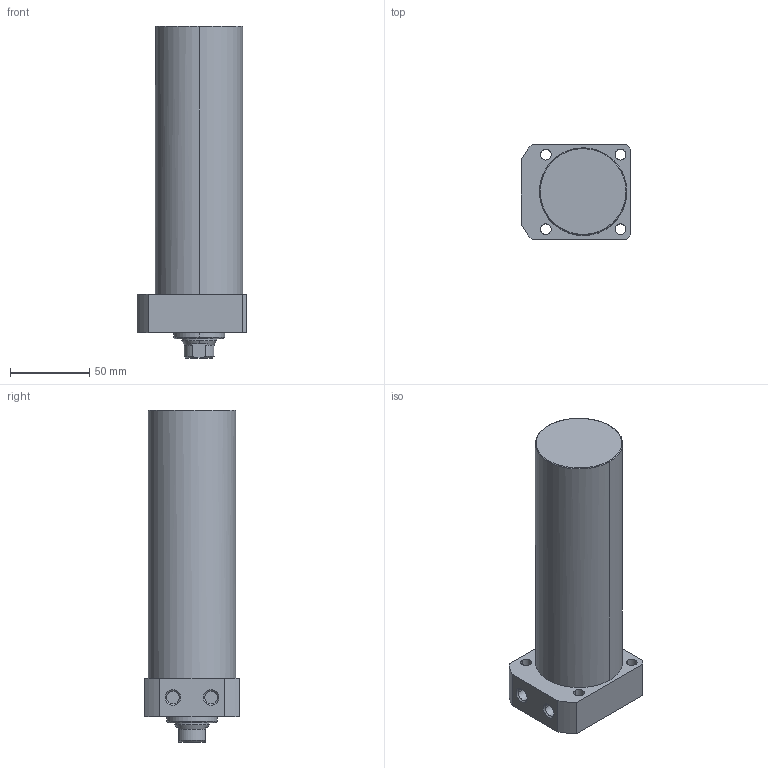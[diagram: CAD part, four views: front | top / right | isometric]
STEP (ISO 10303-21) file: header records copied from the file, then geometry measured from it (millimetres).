
FILE_DESCRIPTION((' '),'2;1');
FILE_NAME( 'TLLR-055CA-140.STEP.stp', '2025-10-24T16:34:43', (' '), ('--- Datakit www.datakit.com---'), ' Datakit CrossCadWare V2024.1 Dec 21 2023', 'Mastercam 2025', ' ');
FILE_SCHEMA(('AUTOMOTIVE_DESIGN { 1 0 10303 214 1 1 1 1 }'));
Length unit declared in the file: millimetre
Products named in the file (1): TLLR-055CA-140
Bounding box: 69 x 60 x 209 mm (x, y, z)
Volume: 499142.7 mm3; surface area: 47488.1 mm2
Topology: 1 solids, 1 shells, 63 faces, 177 edges, 122 vertices
Faces by surface type: cylinder 28, plane 19, cone 14, torus 2
Entity records: 2164 total; most frequent: CARTESIAN_POINT 401, DIRECTION 400, ORIENTED_EDGE 350, EDGE_CURVE 175, AXIS2_PLACEMENT_3D 169, VERTEX_POINT 122, CIRCLE 105, EDGE_LOOP 79
